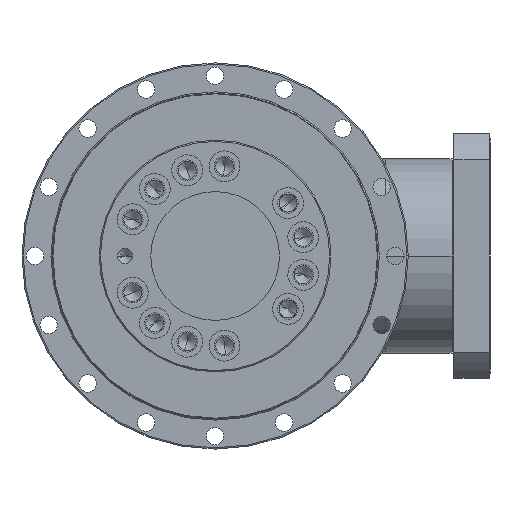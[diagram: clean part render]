
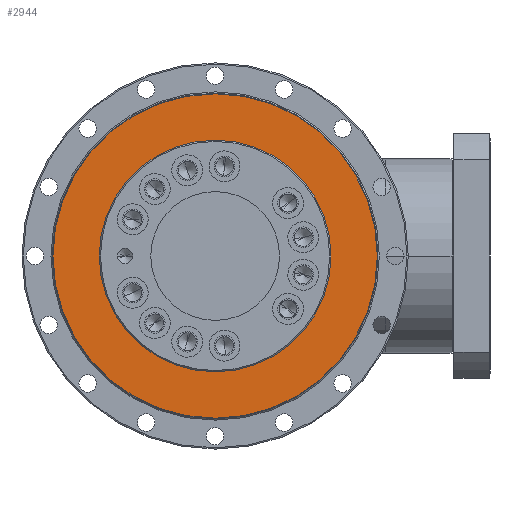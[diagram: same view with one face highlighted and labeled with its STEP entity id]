
A CAD part, left-side view. The second image highlights one B-rep face of the part: STEP entity #2944.
In plain terms, the highlighted planar face has unit normal (-1, 0, 0) as drawn and (1, 0, 0) by its records, which use the part's own axes.
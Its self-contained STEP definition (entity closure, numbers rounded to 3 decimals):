
#1=CARTESIAN_POINT('',(54.,0.,0.));
#2=DIRECTION('',(1.,0.,0.));
#3=DIRECTION('',(0.,1.,0.));
#4=AXIS2_PLACEMENT_3D('',#1,#2,#3);
#6=CARTESIAN_POINT('',(54.,0.,0.));
#7=DIRECTION('',(1.,0.,0.));
#8=DIRECTION('',(0.,-1.,0.));
#9=AXIS2_PLACEMENT_3D('',#6,#7,#8);
#11=CARTESIAN_POINT('',(54.,0.,0.));
#12=DIRECTION('',(-1.,0.,0.));
#13=DIRECTION('',(0.,1.,0.));
#14=AXIS2_PLACEMENT_3D('',#11,#12,#13);
#21=CARTESIAN_POINT('',(54.,0.,0.));
#22=DIRECTION('',(-1.,0.,0.));
#23=DIRECTION('',(0.,-1.,0.));
#24=AXIS2_PLACEMENT_3D('',#21,#22,#23);
#2473=CARTESIAN_POINT('',(54.,125.964,0.));
#2474=CARTESIAN_POINT('',(54.,-125.964,0.));
#2475=VERTEX_POINT('',#2473);
#2476=VERTEX_POINT('',#2474);
#2681=CARTESIAN_POINT('',(54.,90.,0.));
#2682=CARTESIAN_POINT('',(54.,-90.,0.));
#2683=VERTEX_POINT('',#2681);
#2684=VERTEX_POINT('',#2682);
#2927=CARTESIAN_POINT('',(54.,0.,0.));
#2928=DIRECTION('',(1.,0.,0.));
#2929=DIRECTION('',(0.,-1.,0.));
#2930=AXIS2_PLACEMENT_3D('',#2927,#2928,#2929);
#2931=PLANE('',#2930);
#2933=ORIENTED_EDGE('',*,*,#2932,.T.);
#2935=ORIENTED_EDGE('',*,*,#2934,.T.);
#2936=EDGE_LOOP('',(#2933,#2935));
#2937=FACE_OUTER_BOUND('',#2936,.F.);
#2939=ORIENTED_EDGE('',*,*,#2938,.T.);
#2941=ORIENTED_EDGE('',*,*,#2940,.T.);
#2942=EDGE_LOOP('',(#2939,#2941));
#2943=FACE_BOUND('',#2942,.F.);
#2944=ADVANCED_FACE('',(#2937,#2943),#2931,.T.);
#5=CIRCLE('',#4,90.);
#10=CIRCLE('',#9,90.);
#15=CIRCLE('',#14,125.964);
#25=CIRCLE('',#24,125.964);
#2932=EDGE_CURVE('',#2475,#2476,#15,.T.);
#2934=EDGE_CURVE('',#2476,#2475,#25,.T.);
#2938=EDGE_CURVE('',#2683,#2684,#5,.T.);
#2940=EDGE_CURVE('',#2684,#2683,#10,.T.);
